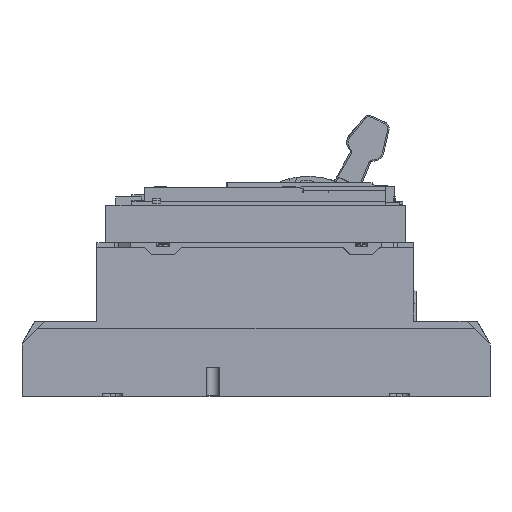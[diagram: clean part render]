
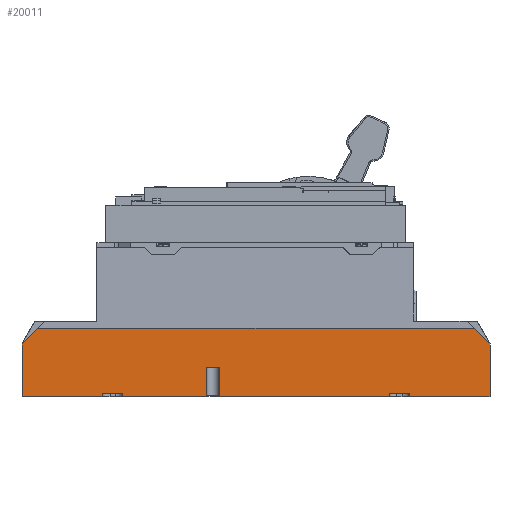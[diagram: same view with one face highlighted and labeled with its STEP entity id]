
A CAD part, left-side view. The second image highlights one B-rep face of the part: STEP entity #20011.
In plain terms, the highlighted planar face has unit normal (-1, 0, -0.017).
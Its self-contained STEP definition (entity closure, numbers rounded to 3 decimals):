
#1375=DIRECTION('',(-0.012,0.707,0.707));
#1376=VECTOR('',#1375,15.611);
#1377=CARTESIAN_POINT('',(-69.818,0.06,36.7));
#1378=LINE('',#1377,#1376);
#1382=DIRECTION('',(0.017,0.,-1.));
#1383=VECTOR('',#1382,36.705);
#1384=CARTESIAN_POINT('',(-69.818,0.06,36.7));
#1385=LINE('',#1384,#1383);
#1389=DIRECTION('',(0.,-1.,0.));
#1390=VECTOR('',#1389,56.39);
#1391=CARTESIAN_POINT('',(-69.203,56.45,0.));
#1392=LINE('',#1391,#1390);
#1396=DIRECTION('',(-0.017,0.,1.));
#1397=VECTOR('',#1396,2.2);
#1398=CARTESIAN_POINT('',(-69.203,56.45,0.));
#1399=LINE('',#1398,#1397);
#1403=DIRECTION('',(0.,1.,0.));
#1404=VECTOR('',#1403,13.7);
#1405=CARTESIAN_POINT('',(-69.24,56.45,2.2));
#1406=LINE('',#1405,#1404);
#1410=DIRECTION('',(-0.017,0.,1.));
#1411=VECTOR('',#1410,2.2);
#1412=CARTESIAN_POINT('',(-69.203,70.15,0.));
#1413=LINE('',#1412,#1411);
#1417=DIRECTION('',(0.,-1.,0.));
#1418=VECTOR('',#1417,118.89);
#1419=CARTESIAN_POINT('',(-69.203,189.04,0.));
#1420=LINE('',#1419,#1418);
#1424=DIRECTION('',(0.017,0.,-1.));
#1425=VECTOR('',#1424,20.503);
#1426=CARTESIAN_POINT('',(-69.547,189.04,20.5));
#1427=LINE('',#1426,#1425);
#1431=DIRECTION('',(0.,1.,0.));
#1432=VECTOR('',#1431,8.5);
#1433=CARTESIAN_POINT('',(-69.547,189.04,20.5));
#1434=LINE('',#1433,#1432);
#1438=DIRECTION('',(0.017,0.,-1.));
#1439=VECTOR('',#1438,20.503);
#1440=CARTESIAN_POINT('',(-69.547,197.54,20.5));
#1441=LINE('',#1440,#1439);
#1445=DIRECTION('',(0.,-1.,0.));
#1446=VECTOR('',#1445,58.9);
#1447=CARTESIAN_POINT('',(-69.203,256.44,0.));
#1448=LINE('',#1447,#1446);
#1452=DIRECTION('',(-0.017,0.,1.));
#1453=VECTOR('',#1452,2.2);
#1454=CARTESIAN_POINT('',(-69.203,256.44,0.));
#1455=LINE('',#1454,#1453);
#1459=DIRECTION('',(0.,1.,0.));
#1460=VECTOR('',#1459,13.7);
#1461=CARTESIAN_POINT('',(-69.24,256.44,2.2));
#1462=LINE('',#1461,#1460);
#1466=DIRECTION('',(-0.017,0.,1.));
#1467=VECTOR('',#1466,2.2);
#1468=CARTESIAN_POINT('',(-69.203,270.14,0.));
#1469=LINE('',#1468,#1467);
#1473=DIRECTION('',(0.,-1.,0.));
#1474=VECTOR('',#1473,56.45);
#1475=CARTESIAN_POINT('',(-69.203,326.59,0.));
#1476=LINE('',#1475,#1474);
#1480=DIRECTION('',(-0.017,0.,1.));
#1481=VECTOR('',#1480,36.705);
#1482=CARTESIAN_POINT('',(-69.203,326.59,0.));
#1483=LINE('',#1482,#1481);
#1487=DIRECTION('',(0.012,0.707,-0.707));
#1488=VECTOR('',#1487,15.611);
#1489=CARTESIAN_POINT('',(-70.003,315.552,47.738));
#1490=LINE('',#1489,#1488);
#5212=DIRECTION('',(0.,-1.,0.));
#5213=VECTOR('',#5212,304.454);
#5214=CARTESIAN_POINT('',(-70.003,315.552,47.738));
#5215=LINE('',#5214,#5213);
#17720=CARTESIAN_POINT('',(-69.547,197.54,20.5));
#17721=VERTEX_POINT('',#17720);
#17722=CARTESIAN_POINT('',(-69.547,189.04,20.5));
#17723=VERTEX_POINT('',#17722);
#17774=CARTESIAN_POINT('',(-69.203,256.44,0.));
#17775=VERTEX_POINT('',#17774);
#17776=CARTESIAN_POINT('',(-69.203,270.14,0.));
#17777=VERTEX_POINT('',#17776);
#17794=CARTESIAN_POINT('',(-69.203,56.45,0.));
#17795=VERTEX_POINT('',#17794);
#17796=CARTESIAN_POINT('',(-69.203,70.15,0.));
#17797=VERTEX_POINT('',#17796);
#17798=CARTESIAN_POINT('',(-69.24,256.44,2.2));
#17799=VERTEX_POINT('',#17798);
#17800=CARTESIAN_POINT('',(-69.24,270.14,2.2));
#17801=VERTEX_POINT('',#17800);
#17802=CARTESIAN_POINT('',(-69.24,56.45,2.2));
#17803=VERTEX_POINT('',#17802);
#17804=CARTESIAN_POINT('',(-69.24,70.15,2.2));
#17805=VERTEX_POINT('',#17804);
#18939=CARTESIAN_POINT('',(-69.818,326.59,36.7));
#18941=VERTEX_POINT('',#18939);
#18946=CARTESIAN_POINT('',(-70.003,315.552,
47.738));
#18947=VERTEX_POINT('',#18946);
#18948=CARTESIAN_POINT('',(-69.203,326.59,0.));
#18949=VERTEX_POINT('',#18948);
#18950=CARTESIAN_POINT('',(-69.818,0.06,36.7));
#18951=CARTESIAN_POINT('',(-70.003,11.098,
47.738));
#18952=VERTEX_POINT('',#18950);
#18953=VERTEX_POINT('',#18951);
#18960=CARTESIAN_POINT('',(-69.203,0.06,0.));
#18961=VERTEX_POINT('',#18960);
#18962=CARTESIAN_POINT('',(-69.203,197.54,0.));
#18963=VERTEX_POINT('',#18962);
#18964=CARTESIAN_POINT('',(-69.203,189.04,0.));
#18965=VERTEX_POINT('',#18964);
#19977=CARTESIAN_POINT('',(-69.203,326.59,0.));
#19978=DIRECTION('',(-1.,0.,-0.017));
#19979=DIRECTION('',(-0.017,0.,1.));
#19980=AXIS2_PLACEMENT_3D('',#19977,#19978,#19979);
#19981=PLANE('',#19980);
#19982=ORIENTED_EDGE('',*,*,#19965,.F.);
#19983=ORIENTED_EDGE('',*,*,#19955,.T.);
#19984=ORIENTED_EDGE('',*,*,#19781,.F.);
#19986=ORIENTED_EDGE('',*,*,#19985,.T.);
#19987=ORIENTED_EDGE('',*,*,#19664,.T.);
#19989=ORIENTED_EDGE('',*,*,#19988,.F.);
#19990=ORIENTED_EDGE('',*,*,#19769,.F.);
#19992=ORIENTED_EDGE('',*,*,#19991,.F.);
#19994=ORIENTED_EDGE('',*,*,#19993,.T.);
#19996=ORIENTED_EDGE('',*,*,#19995,.T.);
#19997=ORIENTED_EDGE('',*,*,#19808,.F.);
#19998=ORIENTED_EDGE('',*,*,#19735,.T.);
#19999=ORIENTED_EDGE('',*,*,#19638,.T.);
#20001=ORIENTED_EDGE('',*,*,#20000,.F.);
#20002=ORIENTED_EDGE('',*,*,#19797,.F.);
#20004=ORIENTED_EDGE('',*,*,#20003,.T.);
#20006=ORIENTED_EDGE('',*,*,#20005,.F.);
#20008=ORIENTED_EDGE('',*,*,#20007,.T.);
#20009=EDGE_LOOP('',(#19982,#19983,#19984,#19986,#19987,#19989,#19990,#19992,
#19994,#19996,#19997,#19998,#19999,#20001,#20002,#20004,#20006,#20008));
#20010=FACE_OUTER_BOUND('',#20009,.F.);
#19638=EDGE_CURVE('',#17799,#17801,#1462,.T.);
#19664=EDGE_CURVE('',#17803,#17805,#1406,.T.);
#19735=EDGE_CURVE('',#17775,#17799,#1455,.T.);
#19769=EDGE_CURVE('',#18965,#17797,#1420,.T.);
#19781=EDGE_CURVE('',#17795,#18961,#1392,.T.);
#19797=EDGE_CURVE('',#18949,#17777,#1476,.T.);
#19808=EDGE_CURVE('',#17775,#18963,#1448,.T.);
#19955=EDGE_CURVE('',#18952,#18961,#1385,.T.);
#19965=EDGE_CURVE('',#18952,#18953,#1378,.T.);
#19985=EDGE_CURVE('',#17795,#17803,#1399,.T.);
#19988=EDGE_CURVE('',#17797,#17805,#1413,.T.);
#19991=EDGE_CURVE('',#17723,#18965,#1427,.T.);
#19993=EDGE_CURVE('',#17723,#17721,#1434,.T.);
#19995=EDGE_CURVE('',#17721,#18963,#1441,.T.);
#20000=EDGE_CURVE('',#17777,#17801,#1469,.T.);
#20003=EDGE_CURVE('',#18949,#18941,#1483,.T.);
#20005=EDGE_CURVE('',#18947,#18941,#1490,.T.);
#20007=EDGE_CURVE('',#18947,#18953,#5215,.T.);
#20011=ADVANCED_FACE('',(#20010),#19981,.T.);
